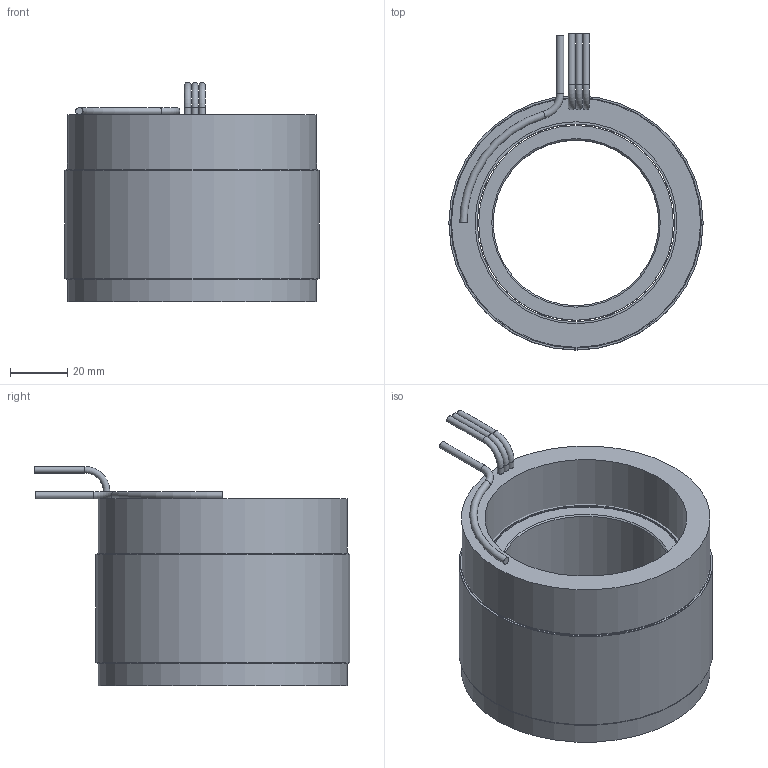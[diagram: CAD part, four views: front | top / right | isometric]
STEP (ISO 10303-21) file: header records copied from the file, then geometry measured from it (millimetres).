
FILE_DESCRIPTION (( 'STEP AP214' ), '1' );
FILE_NAME ('6100394-04.STEP', '2020-12-15T03:35:27', ( '' ), ( '' ), 'SwSTEP 2.0', 'SolidWorks 2016', '' );
FILE_SCHEMA (( 'AUTOMOTIVE_DESIGN' ));
Length unit declared in the file: inch
Products named in the file (10): 4500560-XX_4500560-04; 4150180-XX_4150180-04; 4400103-00; COMP4500560-XX(COIL)_COMP4500560-04(COIL); 6100394-04; 4600567-00; 4450191-XX_4450191-04; 4250382-XX_4250382-04
Assembly tree (10 placements, depth 4):
  6100394-04
    4500560-XX_4500560-04
      4450191-XX_4450191-04
        4450191-XX_4450191-04
        4400103-00
        4400103-00
        4600567-00  x2
      COMP4500560-XX(COIL)_COMP4500560-04(COIL)
    4250382-XX_4250382-04
      4150180-XX_4150180-04
Bounding box: 88.9 x 110.49 x 76.58 mm (x, y, z)
Volume: 267402.5 mm3; surface area: 97811.8 mm2
Topology: 8 solids, 8 shells, 47 faces, 74 edges, 46 vertices
Faces by surface type: cylinder 21, plane 19, torus 5, cone 2
Full cylindrical faces by diameter (mm): 2.286 x6, 2.54 x1, 57.912 x1, 68.072 x1, 69.088 x5, 70.612 x1, 87.122 x1, 87.63 x2, 88.9 x3
Entity records: 1305 total; most frequent: DIRECTION 202, CARTESIAN_POINT 143, AXIS2_PLACEMENT_3D 101, EDGE_LOOP 84, ORIENTED_EDGE 84, FACE_OUTER_BOUND 67, ADVANCED_FACE 43, VERTEX_POINT 42
